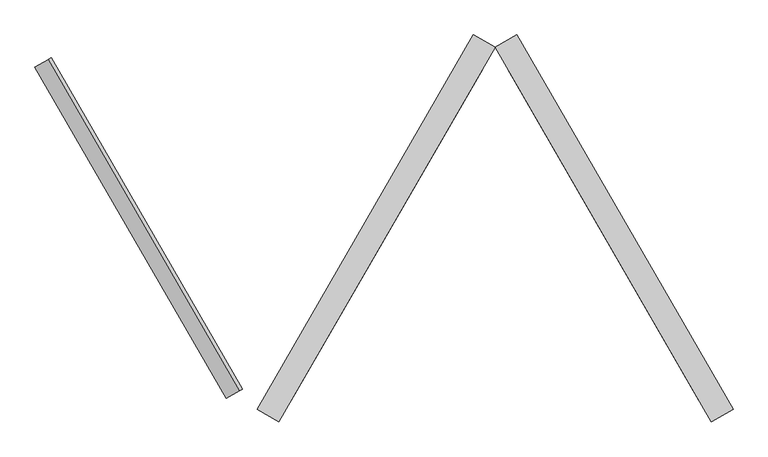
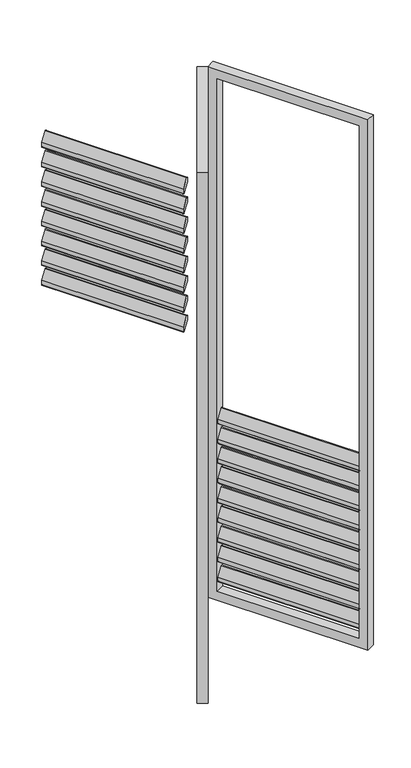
"""IFC4 building model written with IfcOpenShell, lengths in millimetres: proxy geometry, Renson_Amani_Loggia_Paro_Aluminium_Folding : Renson_Amani_Loggia_Paro_Aluminium_Folding."""

from ifc_helpers import new_model, si_unit, point, frame, frame_2d, origin, place, context, project, spatial, polyline, circle_curve, trimmed, segment, composite_curve, outline, extrude, source, transform, mapped, element, save


def generic_models_bdf7e427(model_context):
    return source(origin(), model_context, "Body", "SweptSolid", [
        extrude(outline(composite_curve([segment(polyline([(-44.0658831, 0.0), (0.8886405, 0.0), (17.0325667, -10.4839883)]), True, "CONTINUOUS"), segment(trimmed(circle_curve(frame_2d((15.3986496, -13.0)), 3.0), [point((17.0325667, -10.4839883))], [point((15.3986496, -16.0))], False, "CARTESIAN"), True, "CONTINUOUS"), segment(polyline([(15.3986496, -16.0), (-28.6672334, -16.0)]), True, "CONTINUOUS"), segment(trimmed(circle_curve(frame_2d((-28.6672334, -13.0)), 3.0), [point((-28.6672334, -16.0))], [point((-30.3011505, -15.5160117))], False, "CARTESIAN"), True, "CONTINUOUS"), segment(polyline([(-30.3011505, -15.5160117), (-45.6998002, -5.5160117)]), True, "CONTINUOUS"), segment(trimmed(circle_curve(frame_2d((-44.0658831, -3.0)), 3.0), [point((-45.6998002, -5.5160117))], [point((-44.0658831, 0.0))], False, "CARTESIAN"), True, "CONTINUOUS")], self_intersect=False)), frame((1853.6094572, 37.7168064, 867.3359298), z_axis=(-0.5000000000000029, 0.866025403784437, 0.0), x_axis=(-0.47167124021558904, -0.27231951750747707, -0.8386705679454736)), (0.0, 0.0, 1.0), 612.0),
        extrude(outline(composite_curve([segment(polyline([(-44.0658831, 0.0), (0.8886405, 0.0), (17.0325667, -10.4839883)]), True, "CONTINUOUS"), segment(trimmed(circle_curve(frame_2d((15.3986496, -13.0)), 3.0), [point((17.0325667, -10.4839883))], [point((15.3986496, -16.0))], False, "CARTESIAN"), True, "CONTINUOUS"), segment(polyline([(15.3986496, -16.0), (-28.6672334, -16.0)]), True, "CONTINUOUS"), segment(trimmed(circle_curve(frame_2d((-28.6672334, -13.0)), 3.0), [point((-28.6672334, -16.0))], [point((-30.3011505, -15.5160117))], False, "CARTESIAN"), True, "CONTINUOUS"), segment(polyline([(-30.3011505, -15.5160117), (-45.6998002, -5.5160117)]), True, "CONTINUOUS"), segment(trimmed(circle_curve(frame_2d((-44.0658831, -3.0)), 3.0), [point((-45.6998002, -5.5160117))], [point((-44.0658831, 0.0))], False, "CARTESIAN"), True, "CONTINUOUS")], self_intersect=False)), frame((1853.6094572, 37.7168064, 777.3359298), z_axis=(-0.5000000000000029, 0.866025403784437, 0.0), x_axis=(-0.47167124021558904, -0.27231951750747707, -0.8386705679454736)), (0.0, 0.0, 1.0), 612.0),
        extrude(outline(composite_curve([segment(polyline([(-44.0658831, 0.0), (0.8886405, 0.0), (17.0325667, -10.4839883)]), True, "CONTINUOUS"), segment(trimmed(circle_curve(frame_2d((15.3986496, -13.0)), 3.0), [point((17.0325667, -10.4839883))], [point((15.3986496, -16.0))], False, "CARTESIAN"), True, "CONTINUOUS"), segment(polyline([(15.3986496, -16.0), (-28.6672334, -16.0)]), True, "CONTINUOUS"), segment(trimmed(circle_curve(frame_2d((-28.6672334, -13.0)), 3.0), [point((-28.6672334, -16.0))], [point((-30.3011505, -15.5160117))], False, "CARTESIAN"), True, "CONTINUOUS"), segment(polyline([(-30.3011505, -15.5160117), (-45.6998002, -5.5160117)]), True, "CONTINUOUS"), segment(trimmed(circle_curve(frame_2d((-44.0658831, -3.0)), 3.0), [point((-45.6998002, -5.5160117))], [point((-44.0658831, 0.0))], False, "CARTESIAN"), True, "CONTINUOUS")], self_intersect=False)), frame((1853.6094572, 37.7168064, 687.3359298), z_axis=(-0.5000000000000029, 0.866025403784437, 0.0), x_axis=(-0.47167124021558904, -0.27231951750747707, -0.8386705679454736)), (0.0, 0.0, 1.0), 612.0),
        extrude(outline(composite_curve([segment(polyline([(-44.0658831, 0.0), (0.8886405, 0.0), (17.0325667, -10.4839883)]), True, "CONTINUOUS"), segment(trimmed(circle_curve(frame_2d((15.3986496, -13.0)), 3.0), [point((17.0325667, -10.4839883))], [point((15.3986496, -16.0))], False, "CARTESIAN"), True, "CONTINUOUS"), segment(polyline([(15.3986496, -16.0), (-28.6672334, -16.0)]), True, "CONTINUOUS"), segment(trimmed(circle_curve(frame_2d((-28.6672334, -13.0)), 3.0), [point((-28.6672334, -16.0))], [point((-30.3011505, -15.5160117))], False, "CARTESIAN"), True, "CONTINUOUS"), segment(polyline([(-30.3011505, -15.5160117), (-45.6998002, -5.5160117)]), True, "CONTINUOUS"), segment(trimmed(circle_curve(frame_2d((-44.0658831, -3.0)), 3.0), [point((-45.6998002, -5.5160117))], [point((-44.0658831, 0.0))], False, "CARTESIAN"), True, "CONTINUOUS")], self_intersect=False)), frame((1853.6094572, 37.7168064, 597.3359298), z_axis=(-0.5000000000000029, 0.866025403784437, 0.0), x_axis=(-0.47167124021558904, -0.27231951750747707, -0.8386705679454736)), (0.0, 0.0, 1.0), 612.0),
        extrude(outline(composite_curve([segment(polyline([(-44.0658831, 0.0), (0.8886405, 0.0), (17.0325667, -10.4839883)]), True, "CONTINUOUS"), segment(trimmed(circle_curve(frame_2d((15.3986496, -13.0)), 3.0), [point((17.0325667, -10.4839883))], [point((15.3986496, -16.0))], False, "CARTESIAN"), True, "CONTINUOUS"), segment(polyline([(15.3986496, -16.0), (-28.6672334, -16.0)]), True, "CONTINUOUS"), segment(trimmed(circle_curve(frame_2d((-28.6672334, -13.0)), 3.0), [point((-28.6672334, -16.0))], [point((-30.3011505, -15.5160117))], False, "CARTESIAN"), True, "CONTINUOUS"), segment(polyline([(-30.3011505, -15.5160117), (-45.6998002, -5.5160117)]), True, "CONTINUOUS"), segment(trimmed(circle_curve(frame_2d((-44.0658831, -3.0)), 3.0), [point((-45.6998002, -5.5160117))], [point((-44.0658831, 0.0))], False, "CARTESIAN"), True, "CONTINUOUS")], self_intersect=False)), frame((1853.6094572, 37.7168064, 507.3359298), z_axis=(-0.5000000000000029, 0.866025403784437, 0.0), x_axis=(-0.47167124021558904, -0.27231951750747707, -0.8386705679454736)), (0.0, 0.0, 1.0), 612.0),
        extrude(outline(composite_curve([segment(polyline([(-44.0658831, 0.0), (0.8886405, 0.0), (17.0325667, -10.4839883)]), True, "CONTINUOUS"), segment(trimmed(circle_curve(frame_2d((15.3986496, -13.0)), 3.0), [point((17.0325667, -10.4839883))], [point((15.3986496, -16.0))], False, "CARTESIAN"), True, "CONTINUOUS"), segment(polyline([(15.3986496, -16.0), (-28.6672334, -16.0)]), True, "CONTINUOUS"), segment(trimmed(circle_curve(frame_2d((-28.6672334, -13.0)), 3.0), [point((-28.6672334, -16.0))], [point((-30.3011505, -15.5160117))], False, "CARTESIAN"), True, "CONTINUOUS"), segment(polyline([(-30.3011505, -15.5160117), (-45.6998002, -5.5160117)]), True, "CONTINUOUS"), segment(trimmed(circle_curve(frame_2d((-44.0658831, -3.0)), 3.0), [point((-45.6998002, -5.5160117))], [point((-44.0658831, 0.0))], False, "CARTESIAN"), True, "CONTINUOUS")], self_intersect=False)), frame((1853.6094572, 37.7168064, 417.3359298), z_axis=(-0.5000000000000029, 0.866025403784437, 0.0), x_axis=(-0.47167124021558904, -0.27231951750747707, -0.8386705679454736)), (0.0, 0.0, 1.0), 612.0),
        extrude(outline(composite_curve([segment(polyline([(-44.0658831, 0.0), (0.8886405, 0.0), (17.0325667, -10.4839883)]), True, "CONTINUOUS"), segment(trimmed(circle_curve(frame_2d((15.3986496, -13.0)), 3.0), [point((17.0325667, -10.4839883))], [point((15.3986496, -16.0))], False, "CARTESIAN"), True, "CONTINUOUS"), segment(polyline([(15.3986496, -16.0), (-28.6672334, -16.0)]), True, "CONTINUOUS"), segment(trimmed(circle_curve(frame_2d((-28.6672334, -13.0)), 3.0), [point((-28.6672334, -16.0))], [point((-30.3011505, -15.5160117))], False, "CARTESIAN"), True, "CONTINUOUS"), segment(polyline([(-30.3011505, -15.5160117), (-45.6998002, -5.5160117)]), True, "CONTINUOUS"), segment(trimmed(circle_curve(frame_2d((-44.0658831, -3.0)), 3.0), [point((-45.6998002, -5.5160117))], [point((-44.0658831, 0.0))], False, "CARTESIAN"), True, "CONTINUOUS")], self_intersect=False)), frame((1853.6094572, 37.7168064, 327.3359298), z_axis=(-0.5000000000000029, 0.866025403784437, 0.0), x_axis=(-0.47167124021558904, -0.27231951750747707, -0.8386705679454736)), (0.0, 0.0, 1.0), 612.0),
        extrude(outline(composite_curve([segment(polyline([(-44.0658831, 0.0), (0.8886405, 0.0), (17.0325667, -10.4839883)]), True, "CONTINUOUS"), segment(trimmed(circle_curve(frame_2d((15.3986496, -13.0)), 3.0), [point((17.0325667, -10.4839883))], [point((15.3986496, -16.0))], False, "CARTESIAN"), True, "CONTINUOUS"), segment(polyline([(15.3986496, -16.0), (-28.6672334, -16.0)]), True, "CONTINUOUS"), segment(trimmed(circle_curve(frame_2d((-28.6672334, -13.0)), 3.0), [point((-28.6672334, -16.0))], [point((-30.3011505, -15.5160117))], False, "CARTESIAN"), True, "CONTINUOUS"), segment(polyline([(-30.3011505, -15.5160117), (-45.6998002, -5.5160117)]), True, "CONTINUOUS"), segment(trimmed(circle_curve(frame_2d((-44.0658831, -3.0)), 3.0), [point((-45.6998002, -5.5160117))], [point((-44.0658831, 0.0))], False, "CARTESIAN"), True, "CONTINUOUS")], self_intersect=False)), frame((1853.6094572, 37.7168064, 237.3359298), z_axis=(-0.5000000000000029, 0.866025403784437, 0.0), x_axis=(-0.47167124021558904, -0.27231951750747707, -0.8386705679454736)), (0.0, 0.0, 1.0), 612.0),
        extrude(outline(composite_curve([segment(polyline([(-44.0658831, 0.0), (0.8886405, 0.0), (17.0325667, -10.4839883)]), True, "CONTINUOUS"), segment(trimmed(circle_curve(frame_2d((15.3986496, -13.0)), 3.0), [point((17.0325667, -10.4839883))], [point((15.3986496, -16.0))], False, "CARTESIAN"), True, "CONTINUOUS"), segment(polyline([(15.3986496, -16.0), (-28.6672334, -16.0)]), True, "CONTINUOUS"), segment(trimmed(circle_curve(frame_2d((-28.6672334, -13.0)), 3.0), [point((-28.6672334, -16.0))], [point((-30.3011505, -15.5160117))], False, "CARTESIAN"), True, "CONTINUOUS"), segment(polyline([(-30.3011505, -15.5160117), (-45.6998002, -5.5160117)]), True, "CONTINUOUS"), segment(trimmed(circle_curve(frame_2d((-44.0658831, -3.0)), 3.0), [point((-45.6998002, -5.5160117))], [point((-44.0658831, 0.0))], False, "CARTESIAN"), True, "CONTINUOUS")], self_intersect=False)), frame((1853.6094572, 37.7168064, 147.3359298), z_axis=(-0.5000000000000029, 0.866025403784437, 0.0), x_axis=(-0.47167124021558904, -0.27231951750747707, -0.8386705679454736)), (0.0, 0.0, 1.0), 612.0),
        extrude(outline(polyline([(2380.0, -40.0), (-40.0, -40.0), (-40.0, 652.0), (2380.0, 652.0), (2380.0, -40.0)]), holes=[polyline([(2340.0, 612.0), (0.0, 612.0), (0.0, 0.0), (2340.0, 0.0), (2340.0, 612.0)])]), frame((1542.2820323, 564.6485633, 85.0), z_axis=(0.866025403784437, 0.500000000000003, 0.0), x_axis=(0.0, 0.0, 1.0)), (0.0, 0.0, 1.0), 40.0),
        extrude(outline(composite_curve([segment(trimmed(circle_curve(frame_2d((44.0658831, -3.0)), 3.0), [point((44.0658831, 0.0))], [point((45.6998002, -5.5160117))], False, "CARTESIAN"), True, "CONTINUOUS"), segment(polyline([(45.6998002, -5.5160117), (30.3011505, -15.5160117)]), True, "CONTINUOUS"), segment(trimmed(circle_curve(frame_2d((28.6672334, -13.0)), 3.0), [point((30.3011505, -15.5160117))], [point((28.6672334, -16.0))], False, "CARTESIAN"), True, "CONTINUOUS"), segment(polyline([(28.6672334, -16.0), (-15.3986496, -16.0)]), True, "CONTINUOUS"), segment(trimmed(circle_curve(frame_2d((-15.3986496, -13.0)), 3.0), [point((-15.3986496, -16.0))], [point((-17.0325667, -10.4839883))], False, "CARTESIAN"), True, "CONTINUOUS"), segment(polyline([(-17.0325667, -10.4839883), (-0.8886405, 0.0), (44.0658831, 0.0)]), True, "CONTINUOUS")], self_intersect=False)), frame((1190.9546074, 37.7168064, 2397.3359298), z_axis=(0.5000000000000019, 0.8660254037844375, 0.0), x_axis=(-0.4716712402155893, 0.2723195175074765, 0.8386705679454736)), (0.0, 0.0, 1.0), 612.0),
        extrude(outline(composite_curve([segment(trimmed(circle_curve(frame_2d((44.0658831, -3.0)), 3.0), [point((44.0658831, 0.0))], [point((45.6998002, -5.5160117))], False, "CARTESIAN"), True, "CONTINUOUS"), segment(polyline([(45.6998002, -5.5160117), (30.3011505, -15.5160117)]), True, "CONTINUOUS"), segment(trimmed(circle_curve(frame_2d((28.6672334, -13.0)), 3.0), [point((30.3011505, -15.5160117))], [point((28.6672334, -16.0))], False, "CARTESIAN"), True, "CONTINUOUS"), segment(polyline([(28.6672334, -16.0), (-15.3986496, -16.0)]), True, "CONTINUOUS"), segment(trimmed(circle_curve(frame_2d((-15.3986496, -13.0)), 3.0), [point((-15.3986496, -16.0))], [point((-17.0325667, -10.4839883))], False, "CARTESIAN"), True, "CONTINUOUS"), segment(polyline([(-17.0325667, -10.4839883), (-0.8886405, 0.0), (44.0658831, 0.0)]), True, "CONTINUOUS")], self_intersect=False)), frame((1190.9546074, 37.7168064, 2307.3359298), z_axis=(0.5000000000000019, 0.8660254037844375, 0.0), x_axis=(-0.4716712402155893, 0.2723195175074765, 0.8386705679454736)), (0.0, 0.0, 1.0), 612.0),
        extrude(outline(composite_curve([segment(trimmed(circle_curve(frame_2d((44.0658831, -3.0)), 3.0), [point((44.0658831, 0.0))], [point((45.6998002, -5.5160117))], False, "CARTESIAN"), True, "CONTINUOUS"), segment(polyline([(45.6998002, -5.5160117), (30.3011505, -15.5160117)]), True, "CONTINUOUS"), segment(trimmed(circle_curve(frame_2d((28.6672334, -13.0)), 3.0), [point((30.3011505, -15.5160117))], [point((28.6672334, -16.0))], False, "CARTESIAN"), True, "CONTINUOUS"), segment(polyline([(28.6672334, -16.0), (-15.3986496, -16.0)]), True, "CONTINUOUS"), segment(trimmed(circle_curve(frame_2d((-15.3986496, -13.0)), 3.0), [point((-15.3986496, -16.0))], [point((-17.0325667, -10.4839883))], False, "CARTESIAN"), True, "CONTINUOUS"), segment(polyline([(-17.0325667, -10.4839883), (-0.8886405, 0.0), (44.0658831, 0.0)]), True, "CONTINUOUS")], self_intersect=False)), frame((1190.9546074, 37.7168064, 2217.3359298), z_axis=(0.5000000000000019, 0.8660254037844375, 0.0), x_axis=(-0.4716712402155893, 0.2723195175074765, 0.8386705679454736)), (0.0, 0.0, 1.0), 612.0),
        extrude(outline(composite_curve([segment(trimmed(circle_curve(frame_2d((44.0658831, -3.0)), 3.0), [point((44.0658831, 0.0))], [point((45.6998002, -5.5160117))], False, "CARTESIAN"), True, "CONTINUOUS"), segment(polyline([(45.6998002, -5.5160117), (30.3011505, -15.5160117)]), True, "CONTINUOUS"), segment(trimmed(circle_curve(frame_2d((28.6672334, -13.0)), 3.0), [point((30.3011505, -15.5160117))], [point((28.6672334, -16.0))], False, "CARTESIAN"), True, "CONTINUOUS"), segment(polyline([(28.6672334, -16.0), (-15.3986496, -16.0)]), True, "CONTINUOUS"), segment(trimmed(circle_curve(frame_2d((-15.3986496, -13.0)), 3.0), [point((-15.3986496, -16.0))], [point((-17.0325667, -10.4839883))], False, "CARTESIAN"), True, "CONTINUOUS"), segment(polyline([(-17.0325667, -10.4839883), (-0.8886405, 0.0), (44.0658831, 0.0)]), True, "CONTINUOUS")], self_intersect=False)), frame((1190.9546074, 37.7168064, 2127.3359298), z_axis=(0.5000000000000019, 0.8660254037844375, 0.0), x_axis=(-0.4716712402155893, 0.2723195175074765, 0.8386705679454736)), (0.0, 0.0, 1.0), 612.0),
        extrude(outline(composite_curve([segment(trimmed(circle_curve(frame_2d((44.0658831, -3.0)), 3.0), [point((44.0658831, 0.0))], [point((45.6998002, -5.5160117))], False, "CARTESIAN"), True, "CONTINUOUS"), segment(polyline([(45.6998002, -5.5160117), (30.3011505, -15.5160117)]), True, "CONTINUOUS"), segment(trimmed(circle_curve(frame_2d((28.6672334, -13.0)), 3.0), [point((30.3011505, -15.5160117))], [point((28.6672334, -16.0))], False, "CARTESIAN"), True, "CONTINUOUS"), segment(polyline([(28.6672334, -16.0), (-15.3986496, -16.0)]), True, "CONTINUOUS"), segment(trimmed(circle_curve(frame_2d((-15.3986496, -13.0)), 3.0), [point((-15.3986496, -16.0))], [point((-17.0325667, -10.4839883))], False, "CARTESIAN"), True, "CONTINUOUS"), segment(polyline([(-17.0325667, -10.4839883), (-0.8886405, 0.0), (44.0658831, 0.0)]), True, "CONTINUOUS")], self_intersect=False)), frame((1190.9546074, 37.7168064, 2037.3359298), z_axis=(0.5000000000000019, 0.8660254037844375, 0.0), x_axis=(-0.4716712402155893, 0.2723195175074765, 0.8386705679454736)), (0.0, 0.0, 1.0), 612.0),
        extrude(outline(composite_curve([segment(trimmed(circle_curve(frame_2d((44.0658831, -3.0)), 3.0), [point((44.0658831, 0.0))], [point((45.6998002, -5.5160117))], False, "CARTESIAN"), True, "CONTINUOUS"), segment(polyline([(45.6998002, -5.5160117), (30.3011505, -15.5160117)]), True, "CONTINUOUS"), segment(trimmed(circle_curve(frame_2d((28.6672334, -13.0)), 3.0), [point((30.3011505, -15.5160117))], [point((28.6672334, -16.0))], False, "CARTESIAN"), True, "CONTINUOUS"), segment(polyline([(28.6672334, -16.0), (-15.3986496, -16.0)]), True, "CONTINUOUS"), segment(trimmed(circle_curve(frame_2d((-15.3986496, -13.0)), 3.0), [point((-15.3986496, -16.0))], [point((-17.0325667, -10.4839883))], False, "CARTESIAN"), True, "CONTINUOUS"), segment(polyline([(-17.0325667, -10.4839883), (-0.8886405, 0.0), (44.0658831, 0.0)]), True, "CONTINUOUS")], self_intersect=False)), frame((1190.9546074, 37.7168064, 1947.3359298), z_axis=(0.5000000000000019, 0.8660254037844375, 0.0), x_axis=(-0.4716712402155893, 0.2723195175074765, 0.8386705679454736)), (0.0, 0.0, 1.0), 612.0),
        extrude(outline(composite_curve([segment(trimmed(circle_curve(frame_2d((44.0658831, -3.0)), 3.0), [point((44.0658831, 0.0))], [point((45.6998002, -5.5160117))], False, "CARTESIAN"), True, "CONTINUOUS"), segment(polyline([(45.6998002, -5.5160117), (30.3011505, -15.5160117)]), True, "CONTINUOUS"), segment(trimmed(circle_curve(frame_2d((28.6672334, -13.0)), 3.0), [point((30.3011505, -15.5160117))], [point((28.6672334, -16.0))], False, "CARTESIAN"), True, "CONTINUOUS"), segment(polyline([(28.6672334, -16.0), (-15.3986496, -16.0)]), True, "CONTINUOUS"), segment(trimmed(circle_curve(frame_2d((-15.3986496, -13.0)), 3.0), [point((-15.3986496, -16.0))], [point((-17.0325667, -10.4839883))], False, "CARTESIAN"), True, "CONTINUOUS"), segment(polyline([(-17.0325667, -10.4839883), (-0.8886405, 0.0), (44.0658831, 0.0)]), True, "CONTINUOUS")], self_intersect=False)), frame((1190.9546074, 37.7168064, 1857.3359298), z_axis=(0.5000000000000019, 0.8660254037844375, 0.0), x_axis=(-0.4716712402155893, 0.2723195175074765, 0.8386705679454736)), (0.0, 0.0, 1.0), 612.0),
        extrude(outline(composite_curve([segment(trimmed(circle_curve(frame_2d((44.0658831, -3.0)), 3.0), [point((44.0658831, 0.0))], [point((45.6998002, -5.5160117))], False, "CARTESIAN"), True, "CONTINUOUS"), segment(polyline([(45.6998002, -5.5160117), (30.3011505, -15.5160117)]), True, "CONTINUOUS"), segment(trimmed(circle_curve(frame_2d((28.6672334, -13.0)), 3.0), [point((30.3011505, -15.5160117))], [point((28.6672334, -16.0))], False, "CARTESIAN"), True, "CONTINUOUS"), segment(polyline([(28.6672334, -16.0), (-15.3986496, -16.0)]), True, "CONTINUOUS"), segment(trimmed(circle_curve(frame_2d((-15.3986496, -13.0)), 3.0), [point((-15.3986496, -16.0))], [point((-17.0325667, -10.4839883))], False, "CARTESIAN"), True, "CONTINUOUS"), segment(polyline([(-17.0325667, -10.4839883), (-0.8886405, 0.0), (44.0658831, 0.0)]), True, "CONTINUOUS")], self_intersect=False)), frame((1190.9546074, 37.7168064, 1767.3359298), z_axis=(0.5000000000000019, 0.8660254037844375, 0.0), x_axis=(-0.4716712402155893, 0.2723195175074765, 0.8386705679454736)), (0.0, 0.0, 1.0), 612.0),
        extrude(outline(composite_curve([segment(trimmed(circle_curve(frame_2d((44.0658831, -3.0)), 3.0), [point((44.0658831, 0.0))], [point((45.6998002, -5.5160117))], False, "CARTESIAN"), True, "CONTINUOUS"), segment(polyline([(45.6998002, -5.5160117), (30.3011505, -15.5160117)]), True, "CONTINUOUS"), segment(trimmed(circle_curve(frame_2d((28.6672334, -13.0)), 3.0), [point((30.3011505, -15.5160117))], [point((28.6672334, -16.0))], False, "CARTESIAN"), True, "CONTINUOUS"), segment(polyline([(28.6672334, -16.0), (-15.3986496, -16.0)]), True, "CONTINUOUS"), segment(trimmed(circle_curve(frame_2d((-15.3986496, -13.0)), 3.0), [point((-15.3986496, -16.0))], [point((-17.0325667, -10.4839883))], False, "CARTESIAN"), True, "CONTINUOUS"), segment(polyline([(-17.0325667, -10.4839883), (-0.8886405, 0.0), (44.0658831, 0.0)]), True, "CONTINUOUS")], self_intersect=False)), frame((1190.9546074, 37.7168064, 1677.3359298), z_axis=(0.5000000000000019, 0.8660254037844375, 0.0), x_axis=(-0.4716712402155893, 0.2723195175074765, 0.8386705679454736)), (0.0, 0.0, 1.0), 612.0),
        extrude(outline(composite_curve([segment(trimmed(circle_curve(frame_2d((44.0658831, -3.0)), 3.0), [point((44.0658831, 0.0))], [point((45.6998002, -5.5160117))], False, "CARTESIAN"), True, "CONTINUOUS"), segment(polyline([(45.6998002, -5.5160117), (30.3011505, -15.5160117)]), True, "CONTINUOUS"), segment(trimmed(circle_curve(frame_2d((28.6672334, -13.0)), 3.0), [point((30.3011505, -15.5160117))], [point((28.6672334, -16.0))], False, "CARTESIAN"), True, "CONTINUOUS"), segment(polyline([(28.6672334, -16.0), (-15.3986496, -16.0)]), True, "CONTINUOUS"), segment(trimmed(circle_curve(frame_2d((-15.3986496, -13.0)), 3.0), [point((-15.3986496, -16.0))], [point((-17.0325667, -10.4839883))], False, "CARTESIAN"), True, "CONTINUOUS"), segment(polyline([(-17.0325667, -10.4839883), (-0.8886405, 0.0), (44.0658831, 0.0)]), True, "CONTINUOUS")], self_intersect=False)), frame((1190.9546074, 37.7168064, 1587.3359298), z_axis=(0.5000000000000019, 0.8660254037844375, 0.0), x_axis=(-0.4716712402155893, 0.2723195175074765, 0.8386705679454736)), (0.0, 0.0, 1.0), 612.0),
        extrude(outline(composite_curve([segment(trimmed(circle_curve(frame_2d((44.0658831, -3.0)), 3.0), [point((44.0658831, 0.0))], [point((45.6998002, -5.5160117))], False, "CARTESIAN"), True, "CONTINUOUS"), segment(polyline([(45.6998002, -5.5160117), (30.3011505, -15.5160117)]), True, "CONTINUOUS"), segment(trimmed(circle_curve(frame_2d((28.6672334, -13.0)), 3.0), [point((30.3011505, -15.5160117))], [point((28.6672334, -16.0))], False, "CARTESIAN"), True, "CONTINUOUS"), segment(polyline([(28.6672334, -16.0), (-15.3986496, -16.0)]), True, "CONTINUOUS"), segment(trimmed(circle_curve(frame_2d((-15.3986496, -13.0)), 3.0), [point((-15.3986496, -16.0))], [point((-17.0325667, -10.4839883))], False, "CARTESIAN"), True, "CONTINUOUS"), segment(polyline([(-17.0325667, -10.4839883), (-0.8886405, 0.0), (44.0658831, 0.0)]), True, "CONTINUOUS")], self_intersect=False)), frame((1190.9546074, 37.7168064, 1497.3359298), z_axis=(0.5000000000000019, 0.8660254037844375, 0.0), x_axis=(-0.4716712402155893, 0.2723195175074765, 0.8386705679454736)), (0.0, 0.0, 1.0), 612.0),
        extrude(outline(composite_curve([segment(trimmed(circle_curve(frame_2d((44.0658831, -3.0)), 3.0), [point((44.0658831, 0.0))], [point((45.6998002, -5.5160117))], False, "CARTESIAN"), True, "CONTINUOUS"), segment(polyline([(45.6998002, -5.5160117), (30.3011505, -15.5160117)]), True, "CONTINUOUS"), segment(trimmed(circle_curve(frame_2d((28.6672334, -13.0)), 3.0), [point((30.3011505, -15.5160117))], [point((28.6672334, -16.0))], False, "CARTESIAN"), True, "CONTINUOUS"), segment(polyline([(28.6672334, -16.0), (-15.3986496, -16.0)]), True, "CONTINUOUS"), segment(trimmed(circle_curve(frame_2d((-15.3986496, -13.0)), 3.0), [point((-15.3986496, -16.0))], [point((-17.0325667, -10.4839883))], False, "CARTESIAN"), True, "CONTINUOUS"), segment(polyline([(-17.0325667, -10.4839883), (-0.8886405, 0.0), (44.0658831, 0.0)]), True, "CONTINUOUS")], self_intersect=False)), frame((1190.9546074, 37.7168064, 1407.3359298), z_axis=(0.5000000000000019, 0.8660254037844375, 0.0), x_axis=(-0.4716712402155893, 0.2723195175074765, 0.8386705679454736)), (0.0, 0.0, 1.0), 612.0),
        extrude(outline(composite_curve([segment(trimmed(circle_curve(frame_2d((44.0658831, -3.0)), 3.0), [point((44.0658831, 0.0))], [point((45.6998002, -5.5160117))], False, "CARTESIAN"), True, "CONTINUOUS"), segment(polyline([(45.6998002, -5.5160117), (30.3011505, -15.5160117)]), True, "CONTINUOUS"), segment(trimmed(circle_curve(frame_2d((28.6672334, -13.0)), 3.0), [point((30.3011505, -15.5160117))], [point((28.6672334, -16.0))], False, "CARTESIAN"), True, "CONTINUOUS"), segment(polyline([(28.6672334, -16.0), (-15.3986496, -16.0)]), True, "CONTINUOUS"), segment(trimmed(circle_curve(frame_2d((-15.3986496, -13.0)), 3.0), [point((-15.3986496, -16.0))], [point((-17.0325667, -10.4839883))], False, "CARTESIAN"), True, "CONTINUOUS"), segment(polyline([(-17.0325667, -10.4839883), (-0.8886405, 0.0), (44.0658831, 0.0)]), True, "CONTINUOUS")], self_intersect=False)), frame((1190.9546074, 37.7168064, 1317.3359298), z_axis=(0.5000000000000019, 0.8660254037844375, 0.0), x_axis=(-0.4716712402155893, 0.2723195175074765, 0.8386705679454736)), (0.0, 0.0, 1.0), 612.0),
        extrude(outline(composite_curve([segment(trimmed(circle_curve(frame_2d((44.0658831, -3.0)), 3.0), [point((44.0658831, 0.0))], [point((45.6998002, -5.5160117))], False, "CARTESIAN"), True, "CONTINUOUS"), segment(polyline([(45.6998002, -5.5160117), (30.3011505, -15.5160117)]), True, "CONTINUOUS"), segment(trimmed(circle_curve(frame_2d((28.6672334, -13.0)), 3.0), [point((30.3011505, -15.5160117))], [point((28.6672334, -16.0))], False, "CARTESIAN"), True, "CONTINUOUS"), segment(polyline([(28.6672334, -16.0), (-15.3986496, -16.0)]), True, "CONTINUOUS"), segment(trimmed(circle_curve(frame_2d((-15.3986496, -13.0)), 3.0), [point((-15.3986496, -16.0))], [point((-17.0325667, -10.4839883))], False, "CARTESIAN"), True, "CONTINUOUS"), segment(polyline([(-17.0325667, -10.4839883), (-0.8886405, 0.0), (44.0658831, 0.0)]), True, "CONTINUOUS")], self_intersect=False)), frame((1190.9546074, 37.7168064, 1227.3359298), z_axis=(0.5000000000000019, 0.8660254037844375, 0.0), x_axis=(-0.4716712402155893, 0.2723195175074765, 0.8386705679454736)), (0.0, 0.0, 1.0), 612.0),
        extrude(outline(composite_curve([segment(trimmed(circle_curve(frame_2d((44.0658831, -3.0)), 3.0), [point((44.0658831, 0.0))], [point((45.6998002, -5.5160117))], False, "CARTESIAN"), True, "CONTINUOUS"), segment(polyline([(45.6998002, -5.5160117), (30.3011505, -15.5160117)]), True, "CONTINUOUS"), segment(trimmed(circle_curve(frame_2d((28.6672334, -13.0)), 3.0), [point((30.3011505, -15.5160117))], [point((28.6672334, -16.0))], False, "CARTESIAN"), True, "CONTINUOUS"), segment(polyline([(28.6672334, -16.0), (-15.3986496, -16.0)]), True, "CONTINUOUS"), segment(trimmed(circle_curve(frame_2d((-15.3986496, -13.0)), 3.0), [point((-15.3986496, -16.0))], [point((-17.0325667, -10.4839883))], False, "CARTESIAN"), True, "CONTINUOUS"), segment(polyline([(-17.0325667, -10.4839883), (-0.8886405, 0.0), (44.0658831, 0.0)]), True, "CONTINUOUS")], self_intersect=False)), frame((1190.9546074, 37.7168064, 1137.3359298), z_axis=(0.5000000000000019, 0.8660254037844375, 0.0), x_axis=(-0.4716712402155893, 0.2723195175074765, 0.8386705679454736)), (0.0, 0.0, 1.0), 612.0),
        extrude(outline(composite_curve([segment(trimmed(circle_curve(frame_2d((44.0658831, -3.0)), 3.0), [point((44.0658831, 0.0))], [point((45.6998002, -5.5160117))], False, "CARTESIAN"), True, "CONTINUOUS"), segment(polyline([(45.6998002, -5.5160117), (30.3011505, -15.5160117)]), True, "CONTINUOUS"), segment(trimmed(circle_curve(frame_2d((28.6672334, -13.0)), 3.0), [point((30.3011505, -15.5160117))], [point((28.6672334, -16.0))], False, "CARTESIAN"), True, "CONTINUOUS"), segment(polyline([(28.6672334, -16.0), (-15.3986496, -16.0)]), True, "CONTINUOUS"), segment(trimmed(circle_curve(frame_2d((-15.3986496, -13.0)), 3.0), [point((-15.3986496, -16.0))], [point((-17.0325667, -10.4839883))], False, "CARTESIAN"), True, "CONTINUOUS"), segment(polyline([(-17.0325667, -10.4839883), (-0.8886405, 0.0), (44.0658831, 0.0)]), True, "CONTINUOUS")], self_intersect=False)), frame((1190.9546074, 37.7168064, 1047.3359298), z_axis=(0.5000000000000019, 0.8660254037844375, 0.0), x_axis=(-0.4716712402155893, 0.2723195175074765, 0.8386705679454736)), (0.0, 0.0, 1.0), 612.0),
        extrude(outline(composite_curve([segment(trimmed(circle_curve(frame_2d((44.0658831, -3.0)), 3.0), [point((44.0658831, 0.0))], [point((45.6998002, -5.5160117))], False, "CARTESIAN"), True, "CONTINUOUS"), segment(polyline([(45.6998002, -5.5160117), (30.3011505, -15.5160117)]), True, "CONTINUOUS"), segment(trimmed(circle_curve(frame_2d((28.6672334, -13.0)), 3.0), [point((30.3011505, -15.5160117))], [point((28.6672334, -16.0))], False, "CARTESIAN"), True, "CONTINUOUS"), segment(polyline([(28.6672334, -16.0), (-15.3986496, -16.0)]), True, "CONTINUOUS"), segment(trimmed(circle_curve(frame_2d((-15.3986496, -13.0)), 3.0), [point((-15.3986496, -16.0))], [point((-17.0325667, -10.4839883))], False, "CARTESIAN"), True, "CONTINUOUS"), segment(polyline([(-17.0325667, -10.4839883), (-0.8886405, 0.0), (44.0658831, 0.0)]), True, "CONTINUOUS")], self_intersect=False)), frame((1190.9546074, 37.7168064, 957.3359298), z_axis=(0.5000000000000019, 0.8660254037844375, 0.0), x_axis=(-0.4716712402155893, 0.2723195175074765, 0.8386705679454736)), (0.0, 0.0, 1.0), 612.0),
        extrude(outline(composite_curve([segment(trimmed(circle_curve(frame_2d((44.0658831, -3.0)), 3.0), [point((44.0658831, 0.0))], [point((45.6998002, -5.5160117))], False, "CARTESIAN"), True, "CONTINUOUS"), segment(polyline([(45.6998002, -5.5160117), (30.3011505, -15.5160117)]), True, "CONTINUOUS"), segment(trimmed(circle_curve(frame_2d((28.6672334, -13.0)), 3.0), [point((30.3011505, -15.5160117))], [point((28.6672334, -16.0))], False, "CARTESIAN"), True, "CONTINUOUS"), segment(polyline([(28.6672334, -16.0), (-15.3986496, -16.0)]), True, "CONTINUOUS"), segment(trimmed(circle_curve(frame_2d((-15.3986496, -13.0)), 3.0), [point((-15.3986496, -16.0))], [point((-17.0325667, -10.4839883))], False, "CARTESIAN"), True, "CONTINUOUS"), segment(polyline([(-17.0325667, -10.4839883), (-0.8886405, 0.0), (44.0658831, 0.0)]), True, "CONTINUOUS")], self_intersect=False)), frame((1190.9546074, 37.7168064, 867.3359298), z_axis=(0.5000000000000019, 0.8660254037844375, 0.0), x_axis=(-0.4716712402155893, 0.2723195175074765, 0.8386705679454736)), (0.0, 0.0, 1.0), 612.0),
        extrude(outline(composite_curve([segment(trimmed(circle_curve(frame_2d((44.0658831, -3.0)), 3.0), [point((44.0658831, 0.0))], [point((45.6998002, -5.5160117))], False, "CARTESIAN"), True, "CONTINUOUS"), segment(polyline([(45.6998002, -5.5160117), (30.3011505, -15.5160117)]), True, "CONTINUOUS"), segment(trimmed(circle_curve(frame_2d((28.6672334, -13.0)), 3.0), [point((30.3011505, -15.5160117))], [point((28.6672334, -16.0))], False, "CARTESIAN"), True, "CONTINUOUS"), segment(polyline([(28.6672334, -16.0), (-15.3986496, -16.0)]), True, "CONTINUOUS"), segment(trimmed(circle_curve(frame_2d((-15.3986496, -13.0)), 3.0), [point((-15.3986496, -16.0))], [point((-17.0325667, -10.4839883))], False, "CARTESIAN"), True, "CONTINUOUS"), segment(polyline([(-17.0325667, -10.4839883), (-0.8886405, 0.0), (44.0658831, 0.0)]), True, "CONTINUOUS")], self_intersect=False)), frame((1190.9546074, 37.7168064, 777.3359298), z_axis=(0.5000000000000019, 0.8660254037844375, 0.0), x_axis=(-0.4716712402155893, 0.2723195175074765, 0.8386705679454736)), (0.0, 0.0, 1.0), 612.0),
        extrude(outline(composite_curve([segment(trimmed(circle_curve(frame_2d((44.0658831, -3.0)), 3.0), [point((44.0658831, 0.0))], [point((45.6998002, -5.5160117))], False, "CARTESIAN"), True, "CONTINUOUS"), segment(polyline([(45.6998002, -5.5160117), (30.3011505, -15.5160117)]), True, "CONTINUOUS"), segment(trimmed(circle_curve(frame_2d((28.6672334, -13.0)), 3.0), [point((30.3011505, -15.5160117))], [point((28.6672334, -16.0))], False, "CARTESIAN"), True, "CONTINUOUS"), segment(polyline([(28.6672334, -16.0), (-15.3986496, -16.0)]), True, "CONTINUOUS"), segment(trimmed(circle_curve(frame_2d((-15.3986496, -13.0)), 3.0), [point((-15.3986496, -16.0))], [point((-17.0325667, -10.4839883))], False, "CARTESIAN"), True, "CONTINUOUS"), segment(polyline([(-17.0325667, -10.4839883), (-0.8886405, 0.0), (44.0658831, 0.0)]), True, "CONTINUOUS")], self_intersect=False)), frame((1190.9546074, 37.7168064, 687.3359298), z_axis=(0.5000000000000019, 0.8660254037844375, 0.0), x_axis=(-0.4716712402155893, 0.2723195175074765, 0.8386705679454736)), (0.0, 0.0, 1.0), 612.0),
        extrude(outline(composite_curve([segment(trimmed(circle_curve(frame_2d((44.0658831, -3.0)), 3.0), [point((44.0658831, 0.0))], [point((45.6998002, -5.5160117))], False, "CARTESIAN"), True, "CONTINUOUS"), segment(polyline([(45.6998002, -5.5160117), (30.3011505, -15.5160117)]), True, "CONTINUOUS"), segment(trimmed(circle_curve(frame_2d((28.6672334, -13.0)), 3.0), [point((30.3011505, -15.5160117))], [point((28.6672334, -16.0))], False, "CARTESIAN"), True, "CONTINUOUS"), segment(polyline([(28.6672334, -16.0), (-15.3986496, -16.0)]), True, "CONTINUOUS"), segment(trimmed(circle_curve(frame_2d((-15.3986496, -13.0)), 3.0), [point((-15.3986496, -16.0))], [point((-17.0325667, -10.4839883))], False, "CARTESIAN"), True, "CONTINUOUS"), segment(polyline([(-17.0325667, -10.4839883), (-0.8886405, 0.0), (44.0658831, 0.0)]), True, "CONTINUOUS")], self_intersect=False)), frame((1190.9546074, 37.7168064, 597.3359298), z_axis=(0.5000000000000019, 0.8660254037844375, 0.0), x_axis=(-0.4716712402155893, 0.2723195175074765, 0.8386705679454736)), (0.0, 0.0, 1.0), 612.0),
        extrude(outline(composite_curve([segment(trimmed(circle_curve(frame_2d((44.0658831, -3.0)), 3.0), [point((44.0658831, 0.0))], [point((45.6998002, -5.5160117))], False, "CARTESIAN"), True, "CONTINUOUS"), segment(polyline([(45.6998002, -5.5160117), (30.3011505, -15.5160117)]), True, "CONTINUOUS"), segment(trimmed(circle_curve(frame_2d((28.6672334, -13.0)), 3.0), [point((30.3011505, -15.5160117))], [point((28.6672334, -16.0))], False, "CARTESIAN"), True, "CONTINUOUS"), segment(polyline([(28.6672334, -16.0), (-15.3986496, -16.0)]), True, "CONTINUOUS"), segment(trimmed(circle_curve(frame_2d((-15.3986496, -13.0)), 3.0), [point((-15.3986496, -16.0))], [point((-17.0325667, -10.4839883))], False, "CARTESIAN"), True, "CONTINUOUS"), segment(polyline([(-17.0325667, -10.4839883), (-0.8886405, 0.0), (44.0658831, 0.0)]), True, "CONTINUOUS")], self_intersect=False)), frame((1190.9546074, 37.7168064, 507.3359298), z_axis=(0.5000000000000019, 0.8660254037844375, 0.0), x_axis=(-0.4716712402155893, 0.2723195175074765, 0.8386705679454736)), (0.0, 0.0, 1.0), 612.0),
        extrude(outline(composite_curve([segment(trimmed(circle_curve(frame_2d((44.0658831, -3.0)), 3.0), [point((44.0658831, 0.0))], [point((45.6998002, -5.5160117))], False, "CARTESIAN"), True, "CONTINUOUS"), segment(polyline([(45.6998002, -5.5160117), (30.3011505, -15.5160117)]), True, "CONTINUOUS"), segment(trimmed(circle_curve(frame_2d((28.6672334, -13.0)), 3.0), [point((30.3011505, -15.5160117))], [point((28.6672334, -16.0))], False, "CARTESIAN"), True, "CONTINUOUS"), segment(polyline([(28.6672334, -16.0), (-15.3986496, -16.0)]), True, "CONTINUOUS"), segment(trimmed(circle_curve(frame_2d((-15.3986496, -13.0)), 3.0), [point((-15.3986496, -16.0))], [point((-17.0325667, -10.4839883))], False, "CARTESIAN"), True, "CONTINUOUS"), segment(polyline([(-17.0325667, -10.4839883), (-0.8886405, 0.0), (44.0658831, 0.0)]), True, "CONTINUOUS")], self_intersect=False)), frame((1190.9546074, 37.7168064, 417.3359298), z_axis=(0.5000000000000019, 0.8660254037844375, 0.0), x_axis=(-0.4716712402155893, 0.2723195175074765, 0.8386705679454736)), (0.0, 0.0, 1.0), 612.0),
        extrude(outline(composite_curve([segment(trimmed(circle_curve(frame_2d((44.0658831, -3.0)), 3.0), [point((44.0658831, 0.0))], [point((45.6998002, -5.5160117))], False, "CARTESIAN"), True, "CONTINUOUS"), segment(polyline([(45.6998002, -5.5160117), (30.3011505, -15.5160117)]), True, "CONTINUOUS"), segment(trimmed(circle_curve(frame_2d((28.6672334, -13.0)), 3.0), [point((30.3011505, -15.5160117))], [point((28.6672334, -16.0))], False, "CARTESIAN"), True, "CONTINUOUS"), segment(polyline([(28.6672334, -16.0), (-15.3986496, -16.0)]), True, "CONTINUOUS"), segment(trimmed(circle_curve(frame_2d((-15.3986496, -13.0)), 3.0), [point((-15.3986496, -16.0))], [point((-17.0325667, -10.4839883))], False, "CARTESIAN"), True, "CONTINUOUS"), segment(polyline([(-17.0325667, -10.4839883), (-0.8886405, 0.0), (44.0658831, 0.0)]), True, "CONTINUOUS")], self_intersect=False)), frame((1190.9546074, 37.7168064, 327.3359298), z_axis=(0.5000000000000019, 0.8660254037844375, 0.0), x_axis=(-0.4716712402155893, 0.2723195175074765, 0.8386705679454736)), (0.0, 0.0, 1.0), 612.0),
        extrude(outline(composite_curve([segment(trimmed(circle_curve(frame_2d((44.0658831, -3.0)), 3.0), [point((44.0658831, 0.0))], [point((45.6998002, -5.5160117))], False, "CARTESIAN"), True, "CONTINUOUS"), segment(polyline([(45.6998002, -5.5160117), (30.3011505, -15.5160117)]), True, "CONTINUOUS"), segment(trimmed(circle_curve(frame_2d((28.6672334, -13.0)), 3.0), [point((30.3011505, -15.5160117))], [point((28.6672334, -16.0))], False, "CARTESIAN"), True, "CONTINUOUS"), segment(polyline([(28.6672334, -16.0), (-15.3986496, -16.0)]), True, "CONTINUOUS"), segment(trimmed(circle_curve(frame_2d((-15.3986496, -13.0)), 3.0), [point((-15.3986496, -16.0))], [point((-17.0325667, -10.4839883))], False, "CARTESIAN"), True, "CONTINUOUS"), segment(polyline([(-17.0325667, -10.4839883), (-0.8886405, 0.0), (44.0658831, 0.0)]), True, "CONTINUOUS")], self_intersect=False)), frame((1190.9546074, 37.7168064, 237.3359298), z_axis=(0.5000000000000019, 0.8660254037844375, 0.0), x_axis=(-0.4716712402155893, 0.2723195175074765, 0.8386705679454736)), (0.0, 0.0, 1.0), 612.0),
        extrude(outline(composite_curve([segment(trimmed(circle_curve(frame_2d((44.0658831, -3.0)), 3.0), [point((44.0658831, 0.0))], [point((45.6998002, -5.5160117))], False, "CARTESIAN"), True, "CONTINUOUS"), segment(polyline([(45.6998002, -5.5160117), (30.3011505, -15.5160117)]), True, "CONTINUOUS"), segment(trimmed(circle_curve(frame_2d((28.6672334, -13.0)), 3.0), [point((30.3011505, -15.5160117))], [point((28.6672334, -16.0))], False, "CARTESIAN"), True, "CONTINUOUS"), segment(polyline([(28.6672334, -16.0), (-15.3986496, -16.0)]), True, "CONTINUOUS"), segment(trimmed(circle_curve(frame_2d((-15.3986496, -13.0)), 3.0), [point((-15.3986496, -16.0))], [point((-17.0325667, -10.4839883))], False, "CARTESIAN"), True, "CONTINUOUS"), segment(polyline([(-17.0325667, -10.4839883), (-0.8886405, 0.0), (44.0658831, 0.0)]), True, "CONTINUOUS")], self_intersect=False)), frame((1190.9546074, 37.7168064, 147.3359298), z_axis=(0.5000000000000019, 0.8660254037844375, 0.0), x_axis=(-0.4716712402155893, 0.2723195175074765, 0.8386705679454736)), (0.0, 0.0, 1.0), 612.0),
        extrude(outline(polyline([(2380.0, -40.0), (-40.0, -40.0), (-40.0, 651.9999999), (2380.0, 651.9999999), (2380.0, -40.0)]), holes=[polyline([(2340.0, 612.0), (0.0, 612.0), (0.0, 0.0), (2340.0, 0.0), (2340.0, 612.0)])]), frame((1196.2820323, 34.6410162, 85.0), z_axis=(-0.8660254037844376, 0.5000000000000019, 0.0), x_axis=(0.0, 0.0, 1.0)), (0.0, 0.0, 1.0), 40.0),
        extrude(outline(composite_curve([segment(polyline([(-44.0658831, 0.0), (0.8886405, 0.0), (17.0325667, -10.4839883)]), True, "CONTINUOUS"), segment(trimmed(circle_curve(frame_2d((15.3986496, -13.0)), 3.0), [point((17.0325667, -10.4839883))], [point((15.3986496, -16.0))], False, "CARTESIAN"), True, "CONTINUOUS"), segment(polyline([(15.3986496, -16.0), (-28.6672334, -16.0)]), True, "CONTINUOUS"), segment(trimmed(circle_curve(frame_2d((-28.6672334, -13.0)), 3.0), [point((-28.6672334, -16.0))], [point((-30.3011505, -15.5160117))], False, "CARTESIAN"), True, "CONTINUOUS"), segment(polyline([(-30.3011505, -15.5160117), (-45.6998002, -5.5160117)]), True, "CONTINUOUS"), segment(trimmed(circle_curve(frame_2d((-44.0658831, -3.0)), 3.0), [point((-45.6998002, -5.5160117))], [point((-44.0658831, 0.0))], False, "CARTESIAN"), True, "CONTINUOUS")], self_intersect=False)), frame((1092.6094572, 37.7168064, 2397.3359298), z_axis=(-0.5000000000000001, 0.8660254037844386, 0.0), x_axis=(-0.47167124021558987, -0.2723195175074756, -0.8386705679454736)), (0.0, 0.0, 1.0), 612.0),
        extrude(outline(composite_curve([segment(polyline([(-44.0658831, 0.0), (0.8886405, 0.0), (17.0325667, -10.4839883)]), True, "CONTINUOUS"), segment(trimmed(circle_curve(frame_2d((15.3986496, -13.0)), 3.0), [point((17.0325667, -10.4839883))], [point((15.3986496, -16.0))], False, "CARTESIAN"), True, "CONTINUOUS"), segment(polyline([(15.3986496, -16.0), (-28.6672334, -16.0)]), True, "CONTINUOUS"), segment(trimmed(circle_curve(frame_2d((-28.6672334, -13.0)), 3.0), [point((-28.6672334, -16.0))], [point((-30.3011505, -15.5160117))], False, "CARTESIAN"), True, "CONTINUOUS"), segment(polyline([(-30.3011505, -15.5160117), (-45.6998002, -5.5160117)]), True, "CONTINUOUS"), segment(trimmed(circle_curve(frame_2d((-44.0658831, -3.0)), 3.0), [point((-45.6998002, -5.5160117))], [point((-44.0658831, 0.0))], False, "CARTESIAN"), True, "CONTINUOUS")], self_intersect=False)), frame((1092.6094572, 37.7168064, 2307.3359298), z_axis=(-0.5000000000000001, 0.8660254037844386, 0.0), x_axis=(-0.47167124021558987, -0.2723195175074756, -0.8386705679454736)), (0.0, 0.0, 1.0), 612.0),
        extrude(outline(composite_curve([segment(polyline([(-44.0658831, 0.0), (0.8886405, 0.0), (17.0325667, -10.4839883)]), True, "CONTINUOUS"), segment(trimmed(circle_curve(frame_2d((15.3986496, -13.0)), 3.0), [point((17.0325667, -10.4839883))], [point((15.3986496, -16.0))], False, "CARTESIAN"), True, "CONTINUOUS"), segment(polyline([(15.3986496, -16.0), (-28.6672334, -16.0)]), True, "CONTINUOUS"), segment(trimmed(circle_curve(frame_2d((-28.6672334, -13.0)), 3.0), [point((-28.6672334, -16.0))], [point((-30.3011505, -15.5160117))], False, "CARTESIAN"), True, "CONTINUOUS"), segment(polyline([(-30.3011505, -15.5160117), (-45.6998002, -5.5160117)]), True, "CONTINUOUS"), segment(trimmed(circle_curve(frame_2d((-44.0658831, -3.0)), 3.0), [point((-45.6998002, -5.5160117))], [point((-44.0658831, 0.0))], False, "CARTESIAN"), True, "CONTINUOUS")], self_intersect=False)), frame((1092.6094572, 37.7168064, 2217.3359298), z_axis=(-0.5000000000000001, 0.8660254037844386, 0.0), x_axis=(-0.47167124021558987, -0.2723195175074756, -0.8386705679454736)), (0.0, 0.0, 1.0), 612.0),
        extrude(outline(composite_curve([segment(polyline([(-44.0658831, 0.0), (0.8886405, 0.0), (17.0325667, -10.4839883)]), True, "CONTINUOUS"), segment(trimmed(circle_curve(frame_2d((15.3986496, -13.0)), 3.0), [point((17.0325667, -10.4839883))], [point((15.3986496, -16.0))], False, "CARTESIAN"), True, "CONTINUOUS"), segment(polyline([(15.3986496, -16.0), (-28.6672334, -16.0)]), True, "CONTINUOUS"), segment(trimmed(circle_curve(frame_2d((-28.6672334, -13.0)), 3.0), [point((-28.6672334, -16.0))], [point((-30.3011505, -15.5160117))], False, "CARTESIAN"), True, "CONTINUOUS"), segment(polyline([(-30.3011505, -15.5160117), (-45.6998002, -5.5160117)]), True, "CONTINUOUS"), segment(trimmed(circle_curve(frame_2d((-44.0658831, -3.0)), 3.0), [point((-45.6998002, -5.5160117))], [point((-44.0658831, 0.0))], False, "CARTESIAN"), True, "CONTINUOUS")], self_intersect=False)), frame((1092.6094572, 37.7168064, 2127.3359298), z_axis=(-0.5000000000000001, 0.8660254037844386, 0.0), x_axis=(-0.47167124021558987, -0.2723195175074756, -0.8386705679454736)), (0.0, 0.0, 1.0), 612.0),
        extrude(outline(composite_curve([segment(polyline([(-44.0658831, 0.0), (0.8886405, 0.0), (17.0325667, -10.4839883)]), True, "CONTINUOUS"), segment(trimmed(circle_curve(frame_2d((15.3986496, -13.0)), 3.0), [point((17.0325667, -10.4839883))], [point((15.3986496, -16.0))], False, "CARTESIAN"), True, "CONTINUOUS"), segment(polyline([(15.3986496, -16.0), (-28.6672334, -16.0)]), True, "CONTINUOUS"), segment(trimmed(circle_curve(frame_2d((-28.6672334, -13.0)), 3.0), [point((-28.6672334, -16.0))], [point((-30.3011505, -15.5160117))], False, "CARTESIAN"), True, "CONTINUOUS"), segment(polyline([(-30.3011505, -15.5160117), (-45.6998002, -5.5160117)]), True, "CONTINUOUS"), segment(trimmed(circle_curve(frame_2d((-44.0658831, -3.0)), 3.0), [point((-45.6998002, -5.5160117))], [point((-44.0658831, 0.0))], False, "CARTESIAN"), True, "CONTINUOUS")], self_intersect=False)), frame((1092.6094572, 37.7168064, 2037.3359298), z_axis=(-0.5000000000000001, 0.8660254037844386, 0.0), x_axis=(-0.47167124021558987, -0.2723195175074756, -0.8386705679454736)), (0.0, 0.0, 1.0), 612.0),
        extrude(outline(composite_curve([segment(polyline([(-44.0658831, 0.0), (0.8886405, 0.0), (17.0325667, -10.4839883)]), True, "CONTINUOUS"), segment(trimmed(circle_curve(frame_2d((15.3986496, -13.0)), 3.0), [point((17.0325667, -10.4839883))], [point((15.3986496, -16.0))], False, "CARTESIAN"), True, "CONTINUOUS"), segment(polyline([(15.3986496, -16.0), (-28.6672334, -16.0)]), True, "CONTINUOUS"), segment(trimmed(circle_curve(frame_2d((-28.6672334, -13.0)), 3.0), [point((-28.6672334, -16.0))], [point((-30.3011505, -15.5160117))], False, "CARTESIAN"), True, "CONTINUOUS"), segment(polyline([(-30.3011505, -15.5160117), (-45.6998002, -5.5160117)]), True, "CONTINUOUS"), segment(trimmed(circle_curve(frame_2d((-44.0658831, -3.0)), 3.0), [point((-45.6998002, -5.5160117))], [point((-44.0658831, 0.0))], False, "CARTESIAN"), True, "CONTINUOUS")], self_intersect=False)), frame((1092.6094572, 37.7168064, 1947.3359298), z_axis=(-0.5000000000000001, 0.8660254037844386, 0.0), x_axis=(-0.47167124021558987, -0.2723195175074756, -0.8386705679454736)), (0.0, 0.0, 1.0), 612.0),
        extrude(outline(composite_curve([segment(polyline([(-44.0658831, 0.0), (0.8886405, 0.0), (17.0325667, -10.4839883)]), True, "CONTINUOUS"), segment(trimmed(circle_curve(frame_2d((15.3986496, -13.0)), 3.0), [point((17.0325667, -10.4839883))], [point((15.3986496, -16.0))], False, "CARTESIAN"), True, "CONTINUOUS"), segment(polyline([(15.3986496, -16.0), (-28.6672334, -16.0)]), True, "CONTINUOUS"), segment(trimmed(circle_curve(frame_2d((-28.6672334, -13.0)), 3.0), [point((-28.6672334, -16.0))], [point((-30.3011505, -15.5160117))], False, "CARTESIAN"), True, "CONTINUOUS"), segment(polyline([(-30.3011505, -15.5160117), (-45.6998002, -5.5160117)]), True, "CONTINUOUS"), segment(trimmed(circle_curve(frame_2d((-44.0658831, -3.0)), 3.0), [point((-45.6998002, -5.5160117))], [point((-44.0658831, 0.0))], False, "CARTESIAN"), True, "CONTINUOUS")], self_intersect=False)), frame((1092.6094572, 37.7168064, 1857.3359298), z_axis=(-0.5000000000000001, 0.8660254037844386, 0.0), x_axis=(-0.47167124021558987, -0.2723195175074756, -0.8386705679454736)), (0.0, 0.0, 1.0), 612.0),
        extrude(outline(composite_curve([segment(polyline([(-44.0658831, 0.0), (0.8886405, 0.0), (17.0325667, -10.4839883)]), True, "CONTINUOUS"), segment(trimmed(circle_curve(frame_2d((15.3986496, -13.0)), 3.0), [point((17.0325667, -10.4839883))], [point((15.3986496, -16.0))], False, "CARTESIAN"), True, "CONTINUOUS"), segment(polyline([(15.3986496, -16.0), (-28.6672334, -16.0)]), True, "CONTINUOUS"), segment(trimmed(circle_curve(frame_2d((-28.6672334, -13.0)), 3.0), [point((-28.6672334, -16.0))], [point((-30.3011505, -15.5160117))], False, "CARTESIAN"), True, "CONTINUOUS"), segment(polyline([(-30.3011505, -15.5160117), (-45.6998002, -5.5160117)]), True, "CONTINUOUS"), segment(trimmed(circle_curve(frame_2d((-44.0658831, -3.0)), 3.0), [point((-45.6998002, -5.5160117))], [point((-44.0658831, 0.0))], False, "CARTESIAN"), True, "CONTINUOUS")], self_intersect=False)), frame((1092.6094572, 37.7168064, 1767.3359298), z_axis=(-0.5000000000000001, 0.8660254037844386, 0.0), x_axis=(-0.47167124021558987, -0.2723195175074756, -0.8386705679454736)), (0.0, 0.0, 1.0), 612.0),
    ])


if __name__ == "__main__":
    model = new_model("IFC4")
    model_context = context("Model", 3, world=origin())
    ifc_project = project(units=[si_unit("LENGTHUNIT", "METRE", prefix="MILLI")], contexts=[model_context])
    site = spatial("IfcSite", under=ifc_project)
    building = spatial("IfcBuilding", under=site)
    placement = place(None, origin())
    generic_models_shape = generic_models_bdf7e427(model_context)
    element("IfcBuildingElementProxy", 1, Name="Renson_Amani_Loggia_Paro_Aluminium_Folding : Renson_Amani_Loggia_Paro_Aluminium_Folding", ObjectType="Renson_Amani_Loggia_Paro_Aluminium_Folding : Renson_Amani_Loggia_Paro_Aluminium_Folding", at=placement, inside=building, context=model_context, shape_type="MappedRepresentation", body=[
        mapped(generic_models_shape, transform((0.0, 0.0, 0.0), x_axis=(1.0, 0.0, 0.0), y_axis=(0.0, 1.0, 0.0), z_axis=(0.0, 0.0, 1.0))),
    ])
    save(model, "model.ifc")
